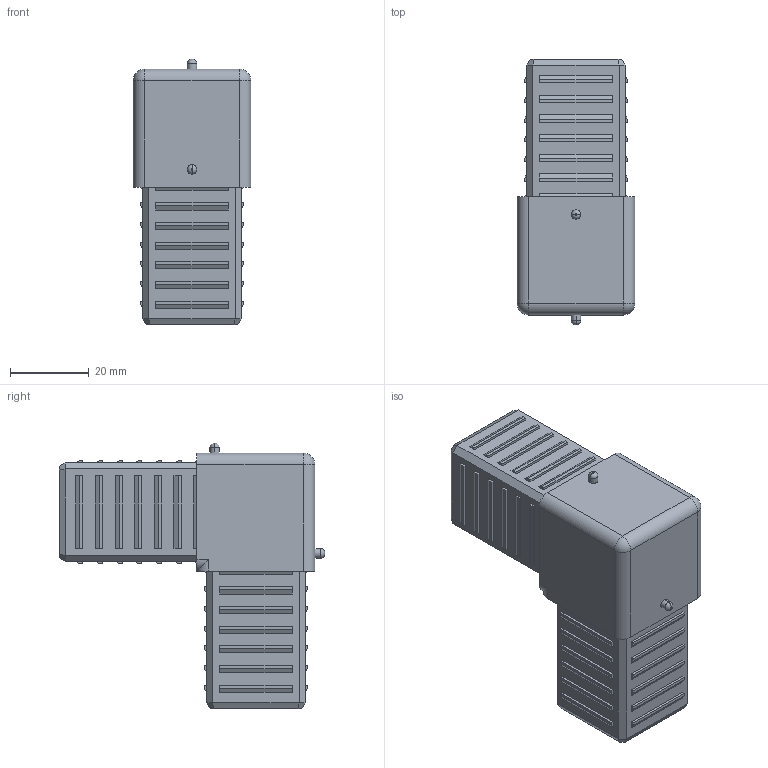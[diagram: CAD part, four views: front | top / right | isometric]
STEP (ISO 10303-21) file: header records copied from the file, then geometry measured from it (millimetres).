
FILE_DESCRIPTION (( 'STEP AP203' ), '1' );
FILE_NAME ('013.030.114.STEP', '2020-09-28T06:33:50', ( '' ), ( '' ), 'SwSTEP 2.0', 'SolidWorks 2018', '' );
FILE_SCHEMA (( 'CONFIG_CONTROL_DESIGN' ));
Length unit declared in the file: millimetre
Products named in the file (1): 013.030.114
Bounding box: 30 x 67.5 x 67.5 mm (x, y, z)
Volume: 32631.3 mm3; surface area: 25294.3 mm2
Topology: 1 solids, 1 shells, 361 faces, 903 edges, 590 vertices
Faces by surface type: plane 334, cylinder 21, torus 4, sphere 2
Entity records: 10610 total; most frequent: CARTESIAN_POINT 1871, ORIENTED_EDGE 1802, DIRECTION 1657, EDGE_CURVE 901, VECTOR 857, LINE 857, VERTEX_POINT 590, EDGE_LOOP 417
